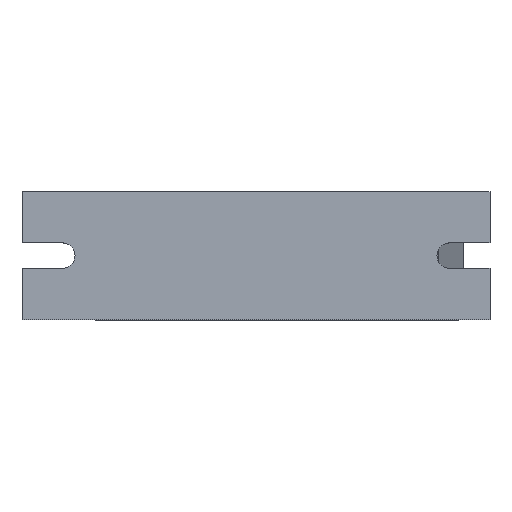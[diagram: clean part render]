
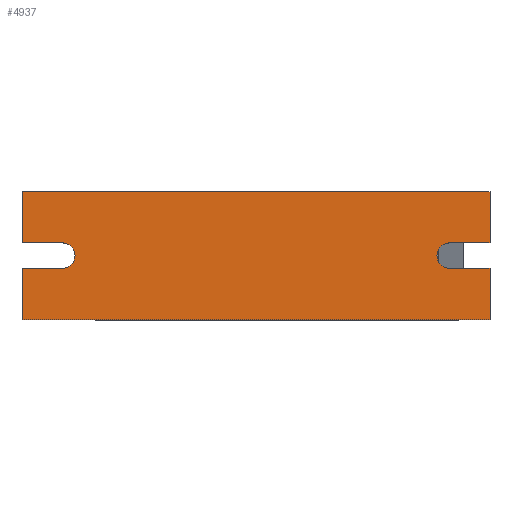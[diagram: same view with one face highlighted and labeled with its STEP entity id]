
A CAD part, top view. The second image highlights one B-rep face of the part: STEP entity #4937.
In plain terms, the highlighted planar face has unit normal (0, 0, 1).
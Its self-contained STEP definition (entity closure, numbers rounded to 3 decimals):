
#95 = CARTESIAN_POINT ( 'NONE',  ( 50., 3.5, 46. ) ) ;
#110 = ORIENTED_EDGE ( 'NONE', *, *, #3067, .F. ) ;
#488 = VERTEX_POINT ( 'NONE', #10108 ) ;
#533 = DIRECTION ( 'NONE',  ( 1., 0., 0. ) ) ;
#647 = LINE ( 'NONE', #3179, #12658 ) ;
#786 = ORIENTED_EDGE ( 'NONE', *, *, #13696, .F. ) ;
#788 = VERTEX_POINT ( 'NONE', #12468 ) ;
#936 = LINE ( 'NONE', #3087, #10836 ) ;
#1030 = CARTESIAN_POINT ( 'NONE',  ( -78., 3.5, 46. ) ) ;
#1064 = PLANE ( 'NONE',  #6707 ) ;
#1374 = AXIS2_PLACEMENT_3D ( 'NONE', #2594, #12051, #533 ) ;
#1406 = LINE ( 'NONE', #5217, #7161 ) ;
#1576 = VECTOR ( 'NONE', #7143, 1000. ) ;
#1805 = VECTOR ( 'NONE', #15079, 1000. ) ;
#2083 = EDGE_CURVE ( 'NONE', #488, #14094, #10572, .T. ) ;
#2087 = EDGE_CURVE ( 'NONE', #12959, #6893, #12922, .T. ) ;
#2379 = LINE ( 'NONE', #3454, #14042 ) ;
#2426 = VERTEX_POINT ( 'NONE', #14754 ) ;
#2594 = CARTESIAN_POINT ( 'NONE',  ( 39., 0., 46. ) ) ;
#2860 = DIRECTION ( 'NONE',  ( -1., 0., 0. ) ) ;
#3067 = EDGE_CURVE ( 'NONE', #8415, #788, #1406, .T. ) ;
#3087 = CARTESIAN_POINT ( 'NONE',  ( 68.985, -17.5, 46. ) ) ;
#3174 = CARTESIAN_POINT ( 'NONE',  ( 50., 17.5, 46. ) ) ;
#3179 = CARTESIAN_POINT ( 'NONE',  ( 50., -174.219, 46. ) ) ;
#3209 = ORIENTED_EDGE ( 'NONE', *, *, #13995, .T. ) ;
#3253 = EDGE_CURVE ( 'NONE', #7901, #6508, #936, .T. ) ;
#3454 = CARTESIAN_POINT ( 'NONE',  ( -78., -174.219, 46. ) ) ;
#3455 = CARTESIAN_POINT ( 'NONE',  ( -78., -3.5, 46. ) ) ;
#3651 = ORIENTED_EDGE ( 'NONE', *, *, #2083, .F. ) ;
#3751 = DIRECTION ( 'NONE',  ( 0., 0., 1. ) ) ;
#3813 = CIRCLE ( 'NONE', #1374, 3.5 ) ;
#4275 = CARTESIAN_POINT ( 'NONE',  ( -81.035, 3.5, 46. ) ) ;
#4550 = ORIENTED_EDGE ( 'NONE', *, *, #3253, .F. ) ;
#4580 = ORIENTED_EDGE ( 'NONE', *, *, #6226, .F. ) ;
#4937 = ADVANCED_FACE ( 'NONE', ( #11525 ), #1064, .T. ) ;
#5062 = CIRCLE ( 'NONE', #13107, 3.5 ) ;
#5161 = CARTESIAN_POINT ( 'NONE',  ( -78., -174.219, 46. ) ) ;
#5217 = CARTESIAN_POINT ( 'NONE',  ( 40.985, 3.5, 46. ) ) ;
#5399 = EDGE_CURVE ( 'NONE', #10077, #14795, #13809, .T. ) ;
#5417 = CARTESIAN_POINT ( 'NONE',  ( 50., -174.219, 46. ) ) ;
#5725 = ORIENTED_EDGE ( 'NONE', *, *, #11867, .F. ) ;
#5728 = DIRECTION ( 'NONE',  ( 0., 0., 1. ) ) ;
#5811 = CARTESIAN_POINT ( 'NONE',  ( -67., 0., 46. ) ) ;
#6226 = EDGE_CURVE ( 'NONE', #788, #12959, #3813, .T. ) ;
#6508 = VERTEX_POINT ( 'NONE', #13811 ) ;
#6683 = AXIS2_PLACEMENT_3D ( 'NONE', #13981, #3751, #11841 ) ;
#6707 = AXIS2_PLACEMENT_3D ( 'NONE', #14991, #5728, #10387 ) ;
#6809 = VERTEX_POINT ( 'NONE', #1030 ) ;
#6893 = VERTEX_POINT ( 'NONE', #9732 ) ;
#6940 = LINE ( 'NONE', #4275, #15010 ) ;
#6960 = DIRECTION ( 'NONE',  ( 1., 0., 0. ) ) ;
#7035 = ORIENTED_EDGE ( 'NONE', *, *, #15047, .T. ) ;
#7143 = DIRECTION ( 'NONE',  ( 0., 1., 0. ) ) ;
#7156 = EDGE_LOOP ( 'NONE', ( #14021, #3651, #13640, #13253, #5725, #4550, #7035, #8226, #4580, #110, #3209, #7382, #786 ) ) ;
#7161 = VECTOR ( 'NONE', #2860, 1000. ) ;
#7216 = CARTESIAN_POINT ( 'NONE',  ( -67., -3.5, 46. ) ) ;
#7382 = ORIENTED_EDGE ( 'NONE', *, *, #14224, .F. ) ;
#7811 = DIRECTION ( 'NONE',  ( -1., 0., 0. ) ) ;
#7901 = VERTEX_POINT ( 'NONE', #13718 ) ;
#8032 = DIRECTION ( 'NONE',  ( 0., 1., 0. ) ) ;
#8226 = ORIENTED_EDGE ( 'NONE', *, *, #2087, .F. ) ;
#8415 = VERTEX_POINT ( 'NONE', #95 ) ;
#8453 = DIRECTION ( 'NONE',  ( 1., 0., 0. ) ) ;
#8499 = VECTOR ( 'NONE', #12453, 1000. ) ;
#8844 = EDGE_CURVE ( 'NONE', #14795, #488, #5062, .T. ) ;
#8951 = DIRECTION ( 'NONE',  ( 0., 1., 0. ) ) ;
#9732 = CARTESIAN_POINT ( 'NONE',  ( 50., -3.5, 46. ) ) ;
#9876 = VECTOR ( 'NONE', #11667, 1000. ) ;
#10077 = VERTEX_POINT ( 'NONE', #3455 ) ;
#10108 = CARTESIAN_POINT ( 'NONE',  ( -63.5, 0., 46. ) ) ;
#10292 = CARTESIAN_POINT ( 'NONE',  ( 68.985, -3.5, 46. ) ) ;
#10387 = DIRECTION ( 'NONE',  ( 1., 0., 0. ) ) ;
#10572 = CIRCLE ( 'NONE', #6683, 3.5 ) ;
#10821 = CARTESIAN_POINT ( 'NONE',  ( 68.985, 17.5, 46. ) ) ;
#10833 = VERTEX_POINT ( 'NONE', #3174 ) ;
#10836 = VECTOR ( 'NONE', #7811, 1000. ) ;
#11204 = VECTOR ( 'NONE', #8453, 1000. ) ;
#11372 = CARTESIAN_POINT ( 'NONE',  ( -67., 3.5, 46. ) ) ;
#11525 = FACE_OUTER_BOUND ( 'NONE', #7156, .T. ) ;
#11598 = DIRECTION ( 'NONE',  ( -1., 0., 0. ) ) ;
#11667 = DIRECTION ( 'NONE',  ( 1., 0., 0. ) ) ;
#11679 = LINE ( 'NONE', #10821, #11204 ) ;
#11764 = CARTESIAN_POINT ( 'NONE',  ( 60.475, -3.5, 46. ) ) ;
#11841 = DIRECTION ( 'NONE',  ( 1., 0., 0. ) ) ;
#11867 = EDGE_CURVE ( 'NONE', #6508, #10077, #14169, .T. ) ;
#12051 = DIRECTION ( 'NONE',  ( 0., 0., 1. ) ) ;
#12453 = DIRECTION ( 'NONE',  ( 0., 1., 0. ) ) ;
#12468 = CARTESIAN_POINT ( 'NONE',  ( 39., 3.5, 46. ) ) ;
#12658 = VECTOR ( 'NONE', #8951, 1000. ) ;
#12874 = EDGE_CURVE ( 'NONE', #14094, #6809, #6940, .T. ) ;
#12922 = LINE ( 'NONE', #11764, #1805 ) ;
#12959 = VERTEX_POINT ( 'NONE', #14834 ) ;
#13107 = AXIS2_PLACEMENT_3D ( 'NONE', #5811, #15073, #6960 ) ;
#13253 = ORIENTED_EDGE ( 'NONE', *, *, #5399, .F. ) ;
#13640 = ORIENTED_EDGE ( 'NONE', *, *, #8844, .F. ) ;
#13696 = EDGE_CURVE ( 'NONE', #6809, #2426, #2379, .T. ) ;
#13718 = CARTESIAN_POINT ( 'NONE',  ( 50., -17.5, 46. ) ) ;
#13809 = LINE ( 'NONE', #10292, #9876 ) ;
#13811 = CARTESIAN_POINT ( 'NONE',  ( -78., -17.5, 46. ) ) ;
#13981 = CARTESIAN_POINT ( 'NONE',  ( -67., 0., 46. ) ) ;
#13995 = EDGE_CURVE ( 'NONE', #8415, #10833, #14752, .T. ) ;
#14021 = ORIENTED_EDGE ( 'NONE', *, *, #12874, .F. ) ;
#14042 = VECTOR ( 'NONE', #8032, 1000. ) ;
#14094 = VERTEX_POINT ( 'NONE', #11372 ) ;
#14169 = LINE ( 'NONE', #5161, #1576 ) ;
#14224 = EDGE_CURVE ( 'NONE', #2426, #10833, #11679, .T. ) ;
#14752 = LINE ( 'NONE', #5417, #8499 ) ;
#14754 = CARTESIAN_POINT ( 'NONE',  ( -78., 17.5, 46. ) ) ;
#14795 = VERTEX_POINT ( 'NONE', #7216 ) ;
#14834 = CARTESIAN_POINT ( 'NONE',  ( 39., -3.5, 46. ) ) ;
#14991 = CARTESIAN_POINT ( 'NONE',  ( 68.985, -174.219, 46. ) ) ;
#15010 = VECTOR ( 'NONE', #11598, 1000. ) ;
#15047 = EDGE_CURVE ( 'NONE', #7901, #6893, #647, .T. ) ;
#15073 = DIRECTION ( 'NONE',  ( 0., 0., 1. ) ) ;
#15079 = DIRECTION ( 'NONE',  ( 1., 0., 0. ) ) ;
